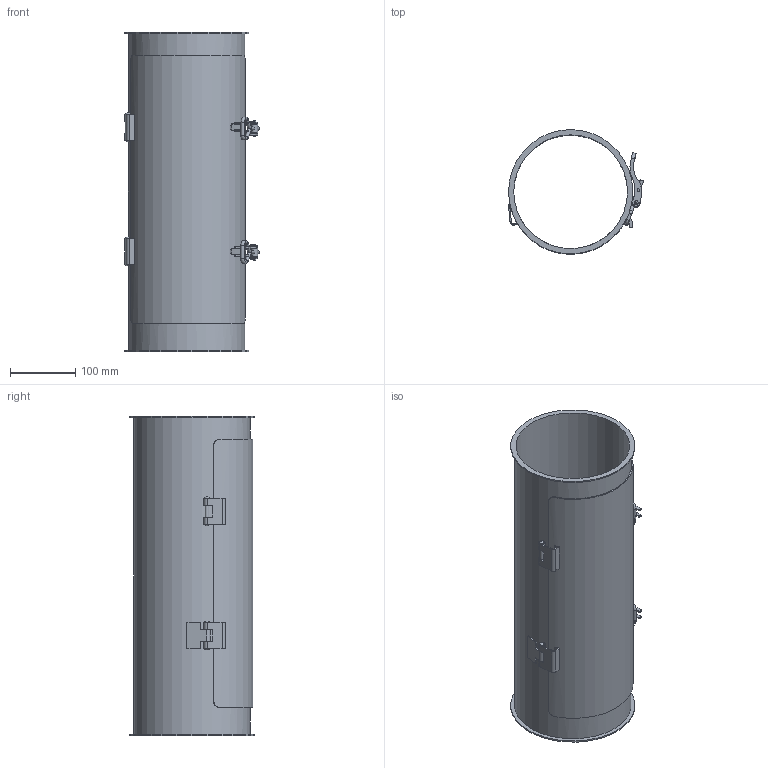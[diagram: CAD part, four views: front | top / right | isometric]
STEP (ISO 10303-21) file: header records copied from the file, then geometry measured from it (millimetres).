
FILE_DESCRIPTION((''),'2;1');
FILE_NAME('U:\Wolfgang\Marcel-3D\fertig\Kapitel 4\1721142.stp','2011-04-21T08:28:46',('TK1'),(''),'Autodesk Inventor 2010','Autodesk Inventor 2010','');
FILE_SCHEMA(('AUTOMOTIVE_DESIGN { 1 0 10303 214 1 1 1 1 }'));
Length unit declared in the file: millimetre
Products named in the file (14): 1721142; 1721142-Rohr; Verschluss1721142; Verschluss17a; Verschluss1b; Verschluss1c; Verschluss1d; Verschluss1e; Gelenk17; Deckel17; 1721142 Halterung2; 1721142 Verschluss; 1721142-Deckel; 1721142 Halterung3
Assembly tree (18 placements, depth 3):
  1721142
    1721142-Rohr
    Verschluss1721142  x2
      Verschluss17a
      Verschluss1b
      Verschluss1c
      Verschluss1d
      Verschluss1e
    Gelenk17
    Deckel17
      1721142 Halterung2  x2
      1721142 Verschluss  x2
      1721142-Deckel
    1721142 Halterung3  x2
Bounding box: 206.29 x 190 x 488 mm (x, y, z)
Volume: 658123.4 mm3; surface area: 668344.5 mm2
Topology: 21 solids, 21 shells, 323 faces, 770 edges, 497 vertices
Faces by surface type: plane 150, cylinder 144, torus 18, bspline 7, sphere 4
Full cylindrical faces by diameter (mm): 2 x8, 4 x8, 5 x12, 6 x11, 6.2 x4, 10 x2, 174 x1, 178 x1, 190 x2
Entity records: 5641 total; most frequent: CARTESIAN_POINT 1143, DIRECTION 920, ORIENTED_EDGE 770, EDGE_CURVE 385, AXIS2_PLACEMENT_3D 355, VERTEX_POINT 270, EDGE_LOOP 243, VECTOR 210
